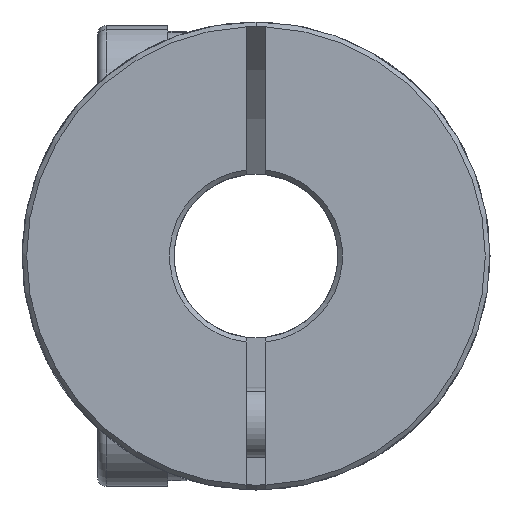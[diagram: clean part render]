
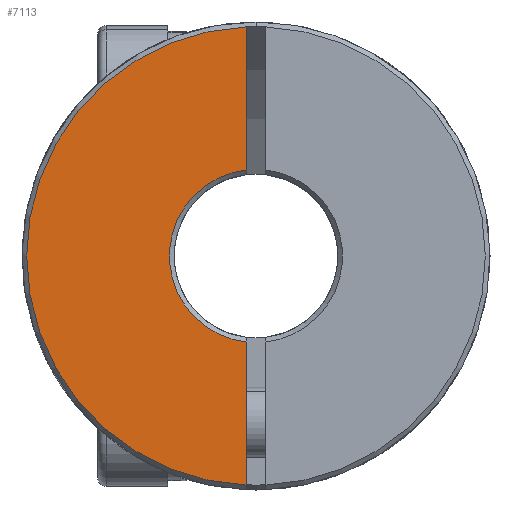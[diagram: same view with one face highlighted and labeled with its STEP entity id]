
A CAD part, front view. The second image highlights one B-rep face of the part: STEP entity #7113.
In plain terms, the highlighted planar face has unit normal (0, -1, 0).
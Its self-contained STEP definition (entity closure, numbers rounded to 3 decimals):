
#95 = LINE ( 'NONE', #4269, #5209 ) ;
#167 = VERTEX_POINT ( 'NONE', #1960 ) ;
#486 = CIRCLE ( 'NONE', #7462, 9.8 ) ;
#1008 = CARTESIAN_POINT ( 'NONE',  ( 0., -17.5, 0. ) ) ;
#1382 = VERTEX_POINT ( 'NONE', #3927 ) ;
#1491 = AXIS2_PLACEMENT_3D ( 'NONE', #1008, #7286, #4393 ) ;
#1578 = DIRECTION ( 'NONE',  ( 0., 0., 1. ) ) ;
#1960 = CARTESIAN_POINT ( 'NONE',  ( -0.4, -17.5, -3.678 ) ) ;
#2164 = DIRECTION ( 'NONE',  ( 0., 0., -1. ) ) ;
#2277 = DIRECTION ( 'NONE',  ( 0., 0., -1. ) ) ;
#2405 = CARTESIAN_POINT ( 'NONE',  ( -0.4, -17.5, 3.678 ) ) ;
#2580 = FACE_OUTER_BOUND ( 'NONE', #4763, .T. ) ;
#2619 = CARTESIAN_POINT ( 'NONE',  ( 0., -17.5, 0. ) ) ;
#3262 = DIRECTION ( 'NONE',  ( 0., -1., 0. ) ) ;
#3408 = EDGE_CURVE ( 'NONE', #4153, #1382, #486, .T. ) ;
#3582 = CIRCLE ( 'NONE', #1491, 3.7 ) ;
#3787 = DIRECTION ( 'NONE',  ( 0., 1., 0. ) ) ;
#3927 = CARTESIAN_POINT ( 'NONE',  ( -0.4, -17.5, -9.792 ) ) ;
#4086 = EDGE_CURVE ( 'NONE', #167, #1382, #5396, .T. ) ;
#4153 = VERTEX_POINT ( 'NONE', #5702 ) ;
#4269 = CARTESIAN_POINT ( 'NONE',  ( -0.4, -17.5, 0. ) ) ;
#4393 = DIRECTION ( 'NONE',  ( 0., 0., 1. ) ) ;
#4458 = CARTESIAN_POINT ( 'NONE',  ( 0., -17.5, 0. ) ) ;
#4763 = EDGE_LOOP ( 'NONE', ( #5232, #7455, #7239, #5686 ) ) ;
#5114 = EDGE_CURVE ( 'NONE', #167, #6695, #3582, .T. ) ;
#5209 = VECTOR ( 'NONE', #2277, 1000. ) ;
#5232 = ORIENTED_EDGE ( 'NONE', *, *, #5876, .F. ) ;
#5396 = LINE ( 'NONE', #5528, #7112 ) ;
#5528 = CARTESIAN_POINT ( 'NONE',  ( -0.4, -17.5, 0. ) ) ;
#5686 = ORIENTED_EDGE ( 'NONE', *, *, #5114, .T. ) ;
#5702 = CARTESIAN_POINT ( 'NONE',  ( -0.4, -17.5, 9.792 ) ) ;
#5876 = EDGE_CURVE ( 'NONE', #4153, #6695, #95, .T. ) ;
#6062 = PLANE ( 'NONE',  #6067 ) ;
#6067 = AXIS2_PLACEMENT_3D ( 'NONE', #2619, #3787, #6714 ) ;
#6695 = VERTEX_POINT ( 'NONE', #2405 ) ;
#6714 = DIRECTION ( 'NONE',  ( 0., 0., 1. ) ) ;
#7112 = VECTOR ( 'NONE', #2164, 1000. ) ;
#7113 = ADVANCED_FACE ( 'NONE', ( #2580 ), #6062, .F. ) ;
#7239 = ORIENTED_EDGE ( 'NONE', *, *, #4086, .F. ) ;
#7286 = DIRECTION ( 'NONE',  ( 0., 1., 0. ) ) ;
#7455 = ORIENTED_EDGE ( 'NONE', *, *, #3408, .T. ) ;
#7462 = AXIS2_PLACEMENT_3D ( 'NONE', #4458, #3262, #1578 ) ;
